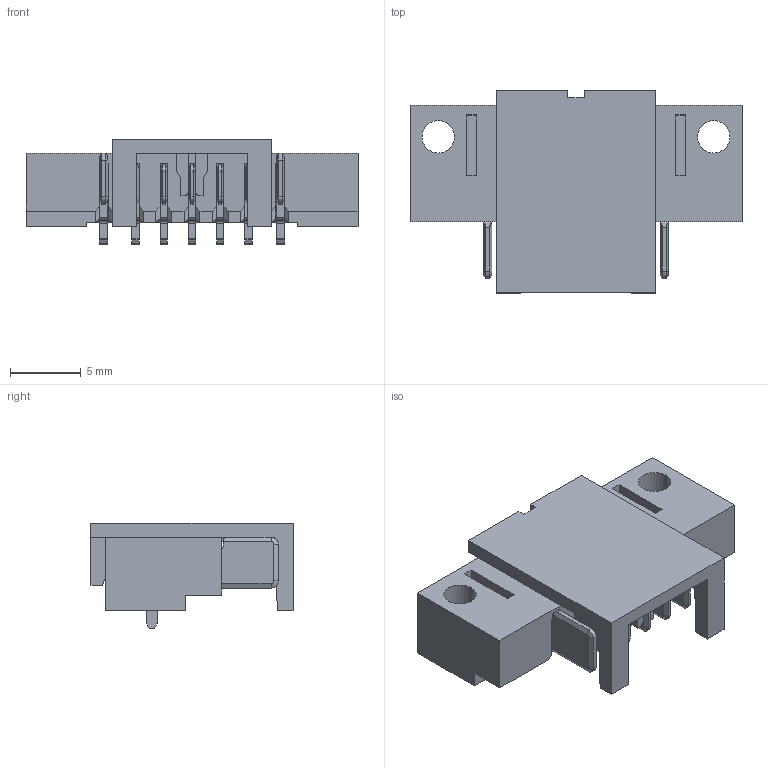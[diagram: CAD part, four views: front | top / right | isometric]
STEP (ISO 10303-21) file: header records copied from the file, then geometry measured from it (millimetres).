
FILE_DESCRIPTION((''),'2;1');
FILE_NAME('ASM0003_ASM','2012-12-05T',('12109895'),(''),'PRO/ENGINEER BY PARAMETRIC TECHNOLOGY CORPORATION, 2011190','PRO/ENGINEER BY PARAMETRIC TECHNOLOGY CORPORATION, 2011190','');
FILE_SCHEMA(('CONFIG_CONTROL_DESIGN'));
Length unit declared in the file: millimetre
Products named in the file (3): 53047-007XX-; PRT0005; ASM0003_ASM
Assembly tree (2 placements, depth 2):
  ASM0003_ASM
    53047-007XX-
    PRT0005
Bounding box: 23.5 x 14.3 x 7.5 mm (x, y, z)
Volume: 929 mm3; surface area: 2634.1 mm2
Topology: 2 solids, 2 shells, 1016 faces, 3136 edges, 2080 vertices
Faces by surface type: plane 637, cylinder 351, cone 28
Entity records: 35381 total; most frequent: CARTESIAN_POINT 6520, ORIENTED_EDGE 6272, DIRECTION 5900, EDGE_CURVE 3136, VECTOR 2294, LINE 2294, VERTEX_POINT 2080, AXIS2_PLACEMENT_3D 1803
